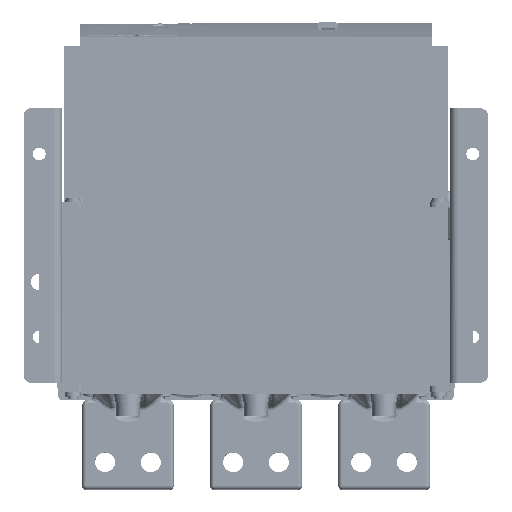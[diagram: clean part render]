
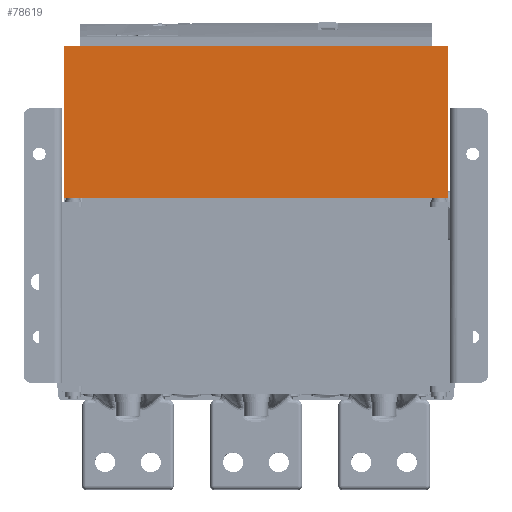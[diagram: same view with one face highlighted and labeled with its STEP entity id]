
A CAD part, top view. The second image highlights one B-rep face of the part: STEP entity #78619.
In plain terms, the highlighted planar face has unit normal (0, 0, 1) as drawn and (0, 0, -1) by its records, which use the part's own axes.
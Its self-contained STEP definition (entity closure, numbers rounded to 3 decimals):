
#8768=LINE('',#127955,#16873);
#8813=LINE('',#128051,#16918);
#8825=LINE('',#128077,#16930);
#8827=LINE('',#128081,#16932);
#16873=VECTOR('',#100791,210.);
#16918=VECTOR('',#100860,83.);
#16930=VECTOR('',#100890,210.);
#16932=VECTOR('',#100896,83.);
#23654=FACE_OUTER_BOUND('',#28042,.T.);
#28042=EDGE_LOOP('',(#63191,#63192,#63193,#63194));
#36787=VERTEX_POINT('',#127952);
#36788=VERTEX_POINT('',#127954);
#36827=VERTEX_POINT('',#128049);
#36832=VERTEX_POINT('',#128075);
#46125=EDGE_CURVE('',#36787,#36788,#8768,.T.);
#46174=EDGE_CURVE('',#36827,#36787,#8813,.T.);
#46188=EDGE_CURVE('',#36832,#36827,#8825,.T.);
#46190=EDGE_CURVE('',#36788,#36832,#8827,.T.);
#63191=ORIENTED_EDGE('',*,*,#46190,.F.);
#63192=ORIENTED_EDGE('',*,*,#46125,.F.);
#63193=ORIENTED_EDGE('',*,*,#46174,.F.);
#63194=ORIENTED_EDGE('',*,*,#46188,.F.);
#75228=PLANE('',#84976);
#78619=ADVANCED_FACE('',(#23654),#75228,.F.);
#84976=AXIS2_PLACEMENT_3D('',#128080,#100894,#100895);
#100791=DIRECTION('',(-1.,0.,0.));
#100860=DIRECTION('',(0.,1.,0.));
#100890=DIRECTION('',(1.,0.,0.));
#100894=DIRECTION('center_axis',(0.,0.,1.));
#100895=DIRECTION('ref_axis',(1.,0.,0.));
#100896=DIRECTION('',(0.,-1.,0.));
#127952=CARTESIAN_POINT('',(105.,41.5,-137.5));
#127954=CARTESIAN_POINT('',(-105.,41.5,-137.5));
#127955=CARTESIAN_POINT('',(105.,41.5,-137.5));
#128049=CARTESIAN_POINT('',(105.,-41.5,-137.5));
#128051=CARTESIAN_POINT('',(105.,-41.5,-137.5));
#128075=CARTESIAN_POINT('',(-105.,-41.5,-137.5));
#128077=CARTESIAN_POINT('',(-105.,-41.5,-137.5));
#128080=CARTESIAN_POINT('Origin',(0.,0.,-137.5));
#128081=CARTESIAN_POINT('',(-105.,41.5,-137.5));
